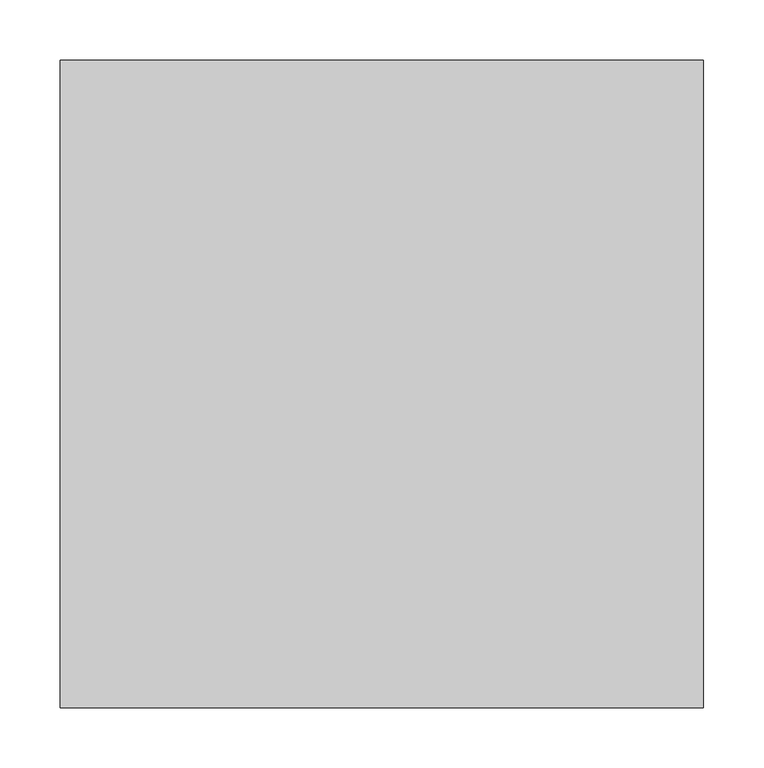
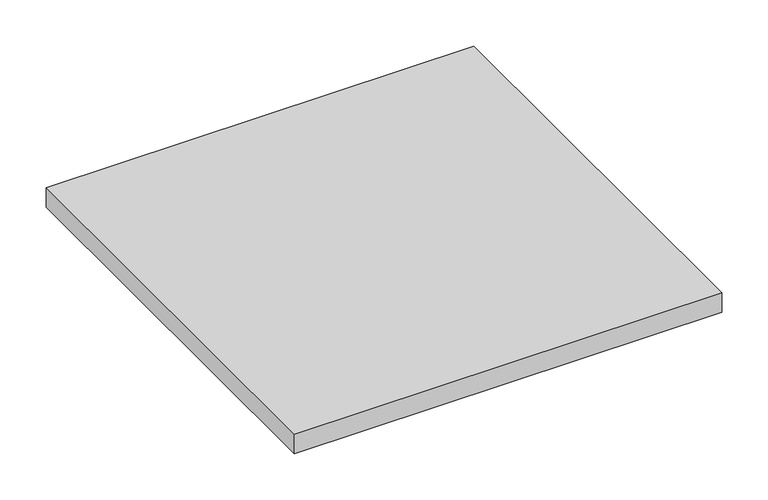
"""IFC4 building model written with IfcOpenShell, lengths in millimetres: furniture geometry."""

from ifc_helpers import new_model, si_unit, frame, origin, place, context, project, spatial, polyline, outline, extrude, source, transform, mapped, element, save


def furniture_09a9b8b3(model_context):
    return source(origin(), model_context, "Body", "SweptSolid", [
        extrude(outline(polyline([(106.5641996, 262.7913812), (-425.2610004, 262.7913812), (-425.2610004, 797.7915812), (106.5641996, 797.7915812), (106.5641996, 262.7913812)])), frame((0.0, 0.0, 664.78912), z_axis=(0.0, 0.0, 1.0), x_axis=(1.0, 0.0, 0.0)), (0.0, 0.0, 1.0), 25.4),
    ])


if __name__ == "__main__":
    model = new_model("IFC4")
    model_context = context("Model", 3, world=origin())
    ifc_project = project(units=[si_unit("LENGTHUNIT", "METRE", prefix="MILLI")], contexts=[model_context])
    site = spatial("IfcSite", under=ifc_project)
    building = spatial("IfcBuilding", under=site)
    placement = place(None, origin())
    furniture_shape = furniture_09a9b8b3(model_context)
    element("IfcFurniture", 1, ObjectType="HermanMiller_CoStruc_C5041_StorageCaseShelf : 23\"D x 22\"W", at=placement, inside=building, context=model_context, shape_type="MappedRepresentation", body=[
        mapped(furniture_shape, transform((0.0, 0.0, 0.0), x_axis=(1.0, 0.0, 0.0), y_axis=(0.0, 1.0, 0.0), z_axis=(0.0, 0.0, 1.0))),
    ])
    save(model, "model.ifc")
